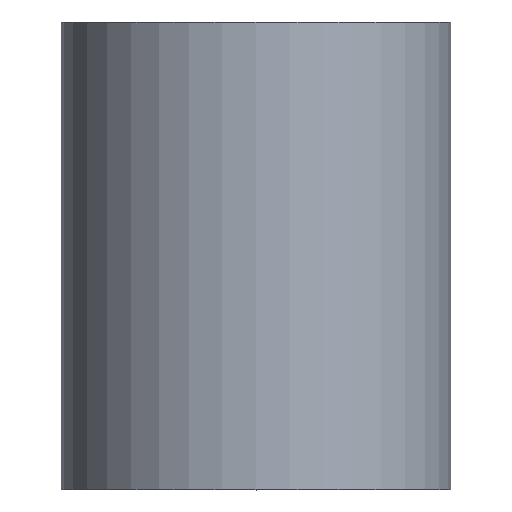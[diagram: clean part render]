
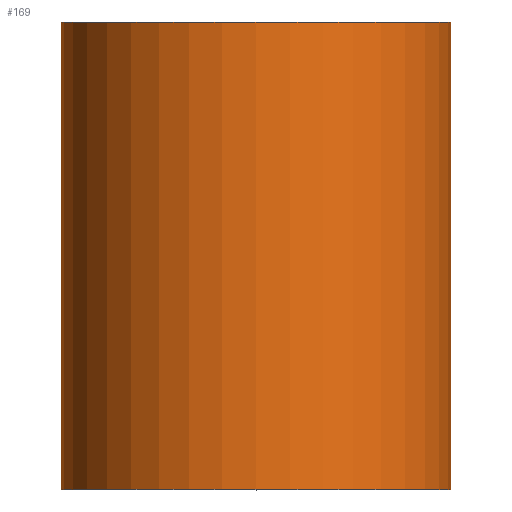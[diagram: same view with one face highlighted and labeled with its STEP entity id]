
A CAD part, top view. The second image highlights one B-rep face of the part: STEP entity #169.
In plain terms, the highlighted cylindrical face has radius 2.5 mm (diameter 5 mm), a partial arc.
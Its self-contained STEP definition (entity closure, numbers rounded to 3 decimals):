
#1 = CARTESIAN_POINT ( 'NONE',  ( 2.5, 0., 0. ) ) ;
#5 = DIRECTION ( 'NONE',  ( -1., 0., 0. ) ) ;
#8 = CARTESIAN_POINT ( 'NONE',  ( 0., 0., 0. ) ) ;
#10 = EDGE_LOOP ( 'NONE', ( #24, #158, #190, #31 ) ) ;
#22 = EDGE_CURVE ( 'NONE', #71, #105, #179, .T. ) ;
#24 = ORIENTED_EDGE ( 'NONE', *, *, #90, .T. ) ;
#31 = ORIENTED_EDGE ( 'NONE', *, *, #22, .F. ) ;
#33 = DIRECTION ( 'NONE',  ( 0., 1., 0. ) ) ;
#35 = CARTESIAN_POINT ( 'NONE',  ( 2.5, 0., 0. ) ) ;
#46 = DIRECTION ( 'NONE',  ( 0., 1., 0. ) ) ;
#47 = LINE ( 'NONE', #35, #65 ) ;
#51 = DIRECTION ( 'NONE',  ( 0., 1., 0. ) ) ;
#60 = VERTEX_POINT ( 'NONE', #1 ) ;
#65 = VECTOR ( 'NONE', #221, 1000. ) ;
#71 = VERTEX_POINT ( 'NONE', #124 ) ;
#83 = AXIS2_PLACEMENT_3D ( 'NONE', #8, #173, #5 ) ;
#90 = EDGE_CURVE ( 'NONE', #71, #60, #108, .T. ) ;
#105 = VERTEX_POINT ( 'NONE', #192 ) ;
#108 = CIRCLE ( 'NONE', #83, 2.5 ) ;
#115 = VECTOR ( 'NONE', #46, 1000. ) ;
#121 = VERTEX_POINT ( 'NONE', #219 ) ;
#124 = CARTESIAN_POINT ( 'NONE',  ( -2.5, 0., 0. ) ) ;
#125 = CARTESIAN_POINT ( 'NONE',  ( 0., 6., 0. ) ) ;
#138 = AXIS2_PLACEMENT_3D ( 'NONE', #125, #51, #290 ) ;
#142 = CARTESIAN_POINT ( 'NONE',  ( -2.5, 0., 0. ) ) ;
#144 = AXIS2_PLACEMENT_3D ( 'NONE', #188, #33, #240 ) ;
#146 = CYLINDRICAL_SURFACE ( 'NONE', #144, 2.5 ) ;
#155 = EDGE_CURVE ( 'NONE', #105, #121, #281, .T. ) ;
#158 = ORIENTED_EDGE ( 'NONE', *, *, #260, .T. ) ;
#169 = ADVANCED_FACE ( 'NONE', ( #211 ), #146, .T. ) ;
#173 = DIRECTION ( 'NONE',  ( 0., 1., 0. ) ) ;
#179 = LINE ( 'NONE', #142, #115 ) ;
#188 = CARTESIAN_POINT ( 'NONE',  ( 0., 0., 0. ) ) ;
#190 = ORIENTED_EDGE ( 'NONE', *, *, #155, .F. ) ;
#192 = CARTESIAN_POINT ( 'NONE',  ( -2.5, 6., 0. ) ) ;
#211 = FACE_OUTER_BOUND ( 'NONE', #10, .T. ) ;
#219 = CARTESIAN_POINT ( 'NONE',  ( 2.5, 6., 0. ) ) ;
#221 = DIRECTION ( 'NONE',  ( 0., 1., 0. ) ) ;
#240 = DIRECTION ( 'NONE',  ( -1., 0., 0. ) ) ;
#260 = EDGE_CURVE ( 'NONE', #60, #121, #47, .T. ) ;
#281 = CIRCLE ( 'NONE', #138, 2.5 ) ;
#290 = DIRECTION ( 'NONE',  ( -1., 0., 0. ) ) ;
